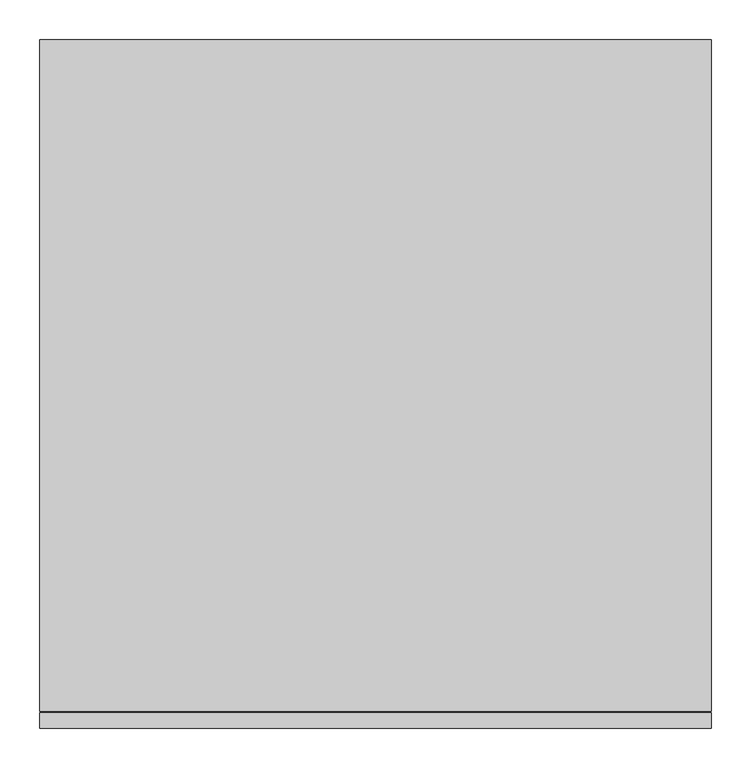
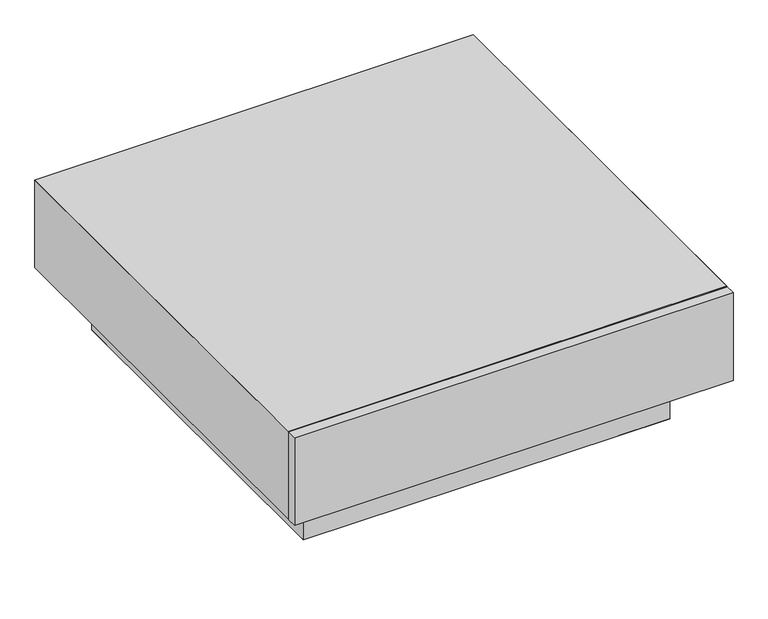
"""IFC4 building model written with IfcOpenShell, lengths in millimetres: furniture geometry, 茶几 - 方形 : W850*D850*H300."""

from ifc_helpers import new_model, si_unit, frame, origin, place, context, project, spatial, polyline, outline, extrude, faceted_brep, source, transform, mapped, element, save


def furniture_3a30bd0c(model_context):
    return source(origin(), model_context, "Body", "SolidModel", [
        faceted_brep([(255.0, -355.0, 10.0), (355.0, -355.0, 10.0), (355.0, -255.0, 10.0), (255.0, -255.0, 10.0), (270.0, -340.0, 0.0), (270.0, -270.0, 0.0), (340.0, -270.0, 0.0), (340.0, -340.0, 0.0)], [[[0, 1, 2, 3]], [[4, 5, 6, 7]], [[4, 7, 1, 0]], [[7, 6, 2, 1]], [[6, 5, 3, 2]], [[5, 4, 0, 3]]]),
        faceted_brep([(-255.0, -355.0, 10.0), (-255.0, -255.0, 10.0), (-355.0, -255.0, 10.0), (-355.0, -355.0, 10.0), (-270.0, -340.0, 0.0), (-340.0, -340.0, 0.0), (-340.0, -270.0, 0.0), (-270.0, -270.0, 0.0)], [[[0, 1, 2, 3]], [[4, 5, 6, 7]], [[4, 7, 1, 0]], [[7, 6, 2, 1]], [[6, 5, 3, 2]], [[5, 4, 0, 3]]]),
        faceted_brep([(255.0, 355.0, 10.0), (255.0, 255.0, 10.0), (355.0, 255.0, 10.0), (355.0, 355.0, 10.0), (270.0, 340.0, 0.0), (340.0, 340.0, 0.0), (340.0, 270.0, 0.0), (270.0, 270.0, 0.0)], [[[0, 1, 2, 3]], [[4, 5, 6, 7]], [[4, 7, 1, 0]], [[7, 6, 2, 1]], [[6, 5, 3, 2]], [[5, 4, 0, 3]]]),
        faceted_brep([(-255.0, 355.0, 10.0), (-355.0, 355.0, 10.0), (-355.0, 255.0, 10.0), (-255.0, 255.0, 10.0), (-270.0, 340.0, 0.0), (-270.0, 270.0, 0.0), (-340.0, 270.0, 0.0), (-340.0, 340.0, 0.0)], [[[0, 1, 2, 3]], [[4, 5, 6, 7]], [[4, 7, 1, 0]], [[7, 6, 2, 1]], [[6, 5, 3, 2]], [[5, 4, 0, 3]]]),
        faceted_brep([(425.0, 425.0, 300.0), (-425.0, 425.0, 300.0), (-425.0, -425.0, 300.0), (425.0, -425.0, 300.0), (405.0, 405.0, 282.0), (405.0, -405.0, 282.0), (-405.0, -405.0, 282.0), (-405.0, 405.0, 282.0)], [[[0, 1, 2, 3]], [[4, 5, 6, 7]], [[4, 7, 1, 0]], [[7, 6, 2, 1]], [[6, 5, 3, 2]], [[5, 4, 0, 3]]]),
        extrude(outline(polyline([(425.0, -427.0), (425.0, -446.8760748), (-425.0, -446.8760748), (-425.0, -427.0), (425.0, -427.0)])), frame((0.0, 0.0, 120.0), z_axis=(0.0, 0.0, 1.0), x_axis=(1.0, 0.0, 0.0)), (0.0, 0.0, 1.0), 180.0),
        faceted_brep([(-405.0, -425.0, 282.0), (-425.0, -425.0, 300.0), (-425.0, -425.0, 120.0), (-405.0, -425.0, 120.0), (-405.0, 405.0, 282.0), (-425.0, 425.0, 300.0), (-425.0, 425.0, 120.0), (425.0, 425.0, 120.0), (425.0, -425.0, 120.0), (405.0, -425.0, 120.0), (405.0, 405.0, 120.0), (-405.0, 405.0, 120.0), (405.0, 405.0, 282.0), (425.0, 425.0, 300.0), (405.0, -425.0, 282.0), (425.0, -425.0, 300.0)], [[[0, 1, 2, 3]], [[1, 0, 4, 5]], [[2, 1, 5, 6]], [[3, 2, 6, 7, 8, 9, 10, 11]], [[0, 3, 11, 4]], [[5, 4, 12, 13]], [[6, 5, 13, 7]], [[4, 11, 10, 12]], [[14, 9, 8, 15]], [[13, 12, 14, 15]], [[7, 13, 15, 8]], [[12, 10, 9, 14]]]),
        extrude(outline(polyline([(355.0, 355.0), (355.0, -355.0), (-355.0, -355.0), (-355.0, 355.0), (355.0, 355.0)])), frame((0.0, 0.0, 10.0), z_axis=(0.0, 0.0, 1.0), x_axis=(1.0, 0.0, 0.0)), (0.0, 0.0, 1.0), 110.0),
    ])


if __name__ == "__main__":
    model = new_model("IFC4")
    model_context = context("Model", 3, world=origin())
    ifc_project = project(units=[si_unit("LENGTHUNIT", "METRE", prefix="MILLI")], contexts=[model_context])
    site = spatial("IfcSite", under=ifc_project)
    building = spatial("IfcBuilding", under=site)
    placement = place(None, origin())
    furniture_shape = furniture_3a30bd0c(model_context)
    element("IfcFurniture", 1, ObjectType="茶几 - 方形 : W850*D850*H300", at=placement, inside=building, context=model_context, shape_type="MappedRepresentation", body=[
        mapped(furniture_shape, transform((0.0, 0.0, 0.0), x_axis=(1.0, 0.0, 0.0), y_axis=(0.0, 1.0, 0.0), z_axis=(0.0, 0.0, 1.0))),
    ])
    save(model, "model.ifc")
